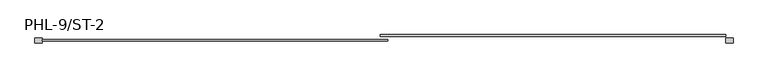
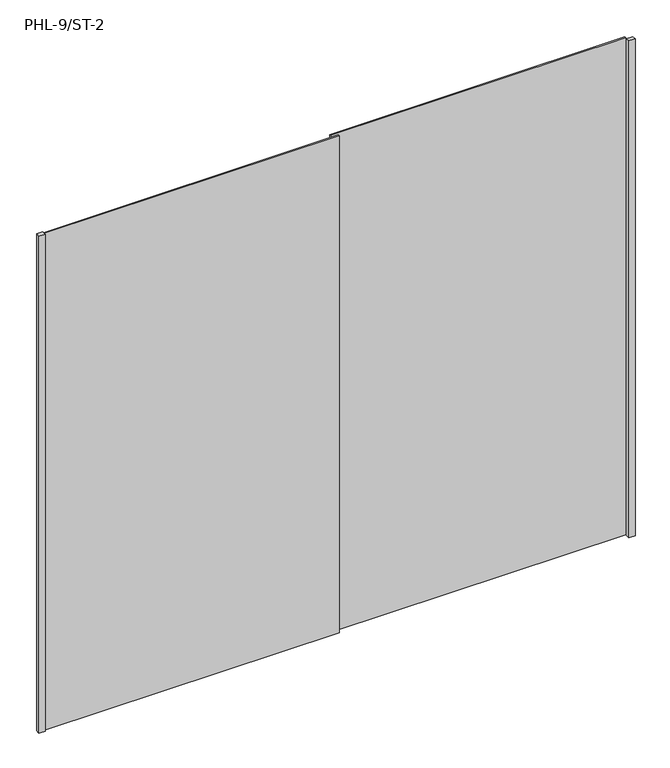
"""IFC4 building model written with IfcOpenShell, lengths in millimetres: furniture geometry, Puerta Closet corre 2 hojas : PHL-9/ST-2."""

from ifc_helpers import new_model, si_unit, origin, origin_with_axes, place, context, project, spatial, polyline, outline, extrude, source, transform, mapped, element, save


def phl_9_st_2_81f4c3ad(model_context):
    return source(origin(), model_context, "Body", "SweptSolid", [
        extrude(outline(polyline([(890.0, 80.0), (860.0, 80.0), (860.0, 100.0), (890.0, 100.0), (890.0, 80.0)])), origin_with_axes(), (0.0, 0.0, 1.0), 2520.0),
        extrude(outline(polyline([(860.0, 106.6666667), (-555.0, 106.6666667), (-555.0, 113.3333333), (860.0, 113.3333333), (860.0, 106.6666667)])), origin_with_axes(), (0.0, 0.0, 1.0), 2520.0),
        extrude(outline(polyline([(-525.0, 86.6666667), (-1940.0, 86.6666667), (-1940.0, 93.3333333), (-525.0, 93.3333333), (-525.0, 86.6666667)])), origin_with_axes(), (0.0, 0.0, 1.0), 2520.0),
        extrude(outline(polyline([(-1970.0, 80.0), (-1970.0, 100.0), (-1940.0, 100.0), (-1940.0, 80.0), (-1970.0, 80.0)])), origin_with_axes(), (0.0, 0.0, 1.0), 2520.0),
    ])


if __name__ == "__main__":
    model = new_model("IFC4")
    model_context = context("Model", 3, world=origin())
    ifc_project = project(units=[si_unit("LENGTHUNIT", "METRE", prefix="MILLI")], contexts=[model_context])
    site = spatial("IfcSite", under=ifc_project)
    building = spatial("IfcBuilding", under=site)
    placement = place(None, origin())
    phl_9_st_2_shape = phl_9_st_2_81f4c3ad(model_context)
    element("IfcFurniture", 1, ObjectType="Puerta Closet corre 2 hojas : PHL-9/ST-2", at=placement, inside=building, context=model_context, shape_type="MappedRepresentation", body=[
        mapped(phl_9_st_2_shape, transform((0.0, 0.0, 0.0), x_axis=(1.0, 0.0, 0.0), y_axis=(0.0, 1.0, 0.0), z_axis=(0.0, 0.0, 1.0))),
    ])
    save(model, "model.ifc")
